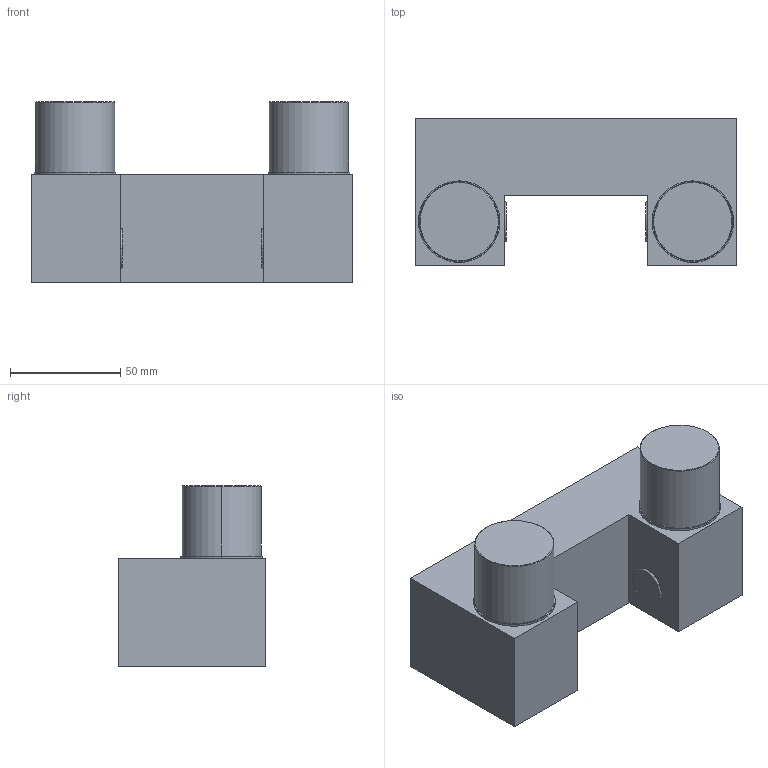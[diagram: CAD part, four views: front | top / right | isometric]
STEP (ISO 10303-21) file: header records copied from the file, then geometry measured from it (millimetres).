
FILE_DESCRIPTION((''),'2;1');
FILE_NAME('FRC65T15SEM-DEM01','2017-04-06T',('pietro.a'),(''),'CREO PARAMETRIC BY PTC INC, 2016050','CREO PARAMETRIC BY PTC INC, 2016050','');
FILE_SCHEMA(('CONFIG_CONTROL_DESIGN'));
Length unit declared in the file: millimetre
Products named in the file (1): FRC65T15SEM-DEM01
Bounding box: 146 x 67 x 82 mm (x, y, z)
Volume: 439139.7 mm3; surface area: 52233.5 mm2
Topology: 1 solids, 5 shells, 72 faces, 164 edges, 100 vertices
Faces by surface type: cylinder 28, plane 20, cone 20, torus 4
Entity records: 2023 total; most frequent: DIRECTION 386, CARTESIAN_POINT 329, ORIENTED_EDGE 296, AXIS2_PLACEMENT_3D 157, EDGE_CURVE 156, VERTEX_POINT 100, EDGE_LOOP 86, CIRCLE 84
